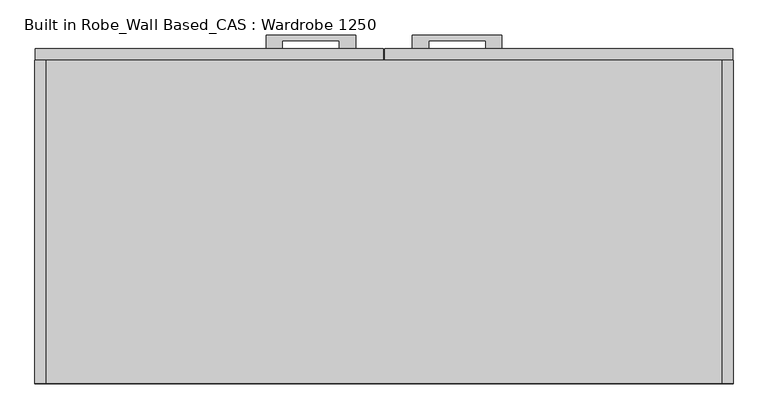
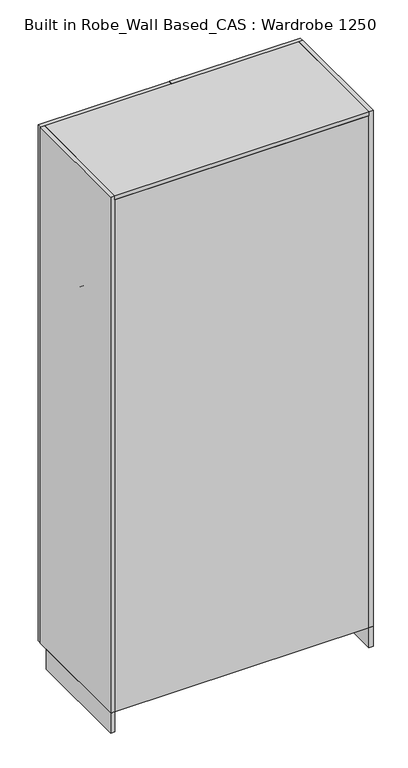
"""IFC4 building model written with IfcOpenShell, lengths in millimetres: furniture geometry, Built in Robe_Wall Based_CAS : Wardrobe 1250."""

from ifc_helpers import new_model, si_unit, point, frame, frame_2d, origin, origin_with_axes, place, context, project, spatial, polyline, circle_curve, trimmed, segment, composite_curve, outline, extrude, source, transform, mapped, element, save


def built_in_robe_wall_based_cas_wardrobe_1250_ac089991(model_context):
    return source(origin(), model_context, "Body", "SweptSolid", [
        extrude(outline(polyline([(750.0, -11.0), (750.0, -541.0), (730.0, -541.0), (730.0, -31.0), (-480.0, -31.0), (-480.0, -541.0), (-500.0, -541.0), (-500.0, -11.0), (750.0, -11.0)])), origin_with_axes(), (0.0, 0.0, 1.0), 100.0),
        extrude(outline(polyline([(176.0, 84.0), (336.0, 84.0), (336.0, 59.0), (307.0, 59.0), (307.0, 74.0), (205.0, 74.0), (205.0, 59.0), (176.0, 59.0), (176.0, 84.0)])), frame((0.0, 0.0, 792.5), z_axis=(0.0, 0.0, 1.0), x_axis=(1.0, 0.0, 0.0)), (0.0, 0.0, 1.0), 15.0),
        extrude(outline(polyline([(749.0, 59.0), (749.0, 39.0), (126.0, 39.0), (126.0, 59.0), (749.0, 59.0)])), frame((0.0, 0.0, 100.0), z_axis=(0.0, 0.0, 1.0), x_axis=(1.0, 0.0, 0.0)), (0.0, 0.0, 1.0), 2599.0),
        extrude(outline(polyline([(74.0, 84.0), (74.0, 59.0), (45.0, 59.0), (45.0, 74.0), (-57.0, 74.0), (-57.0, 59.0), (-86.0, 59.0), (-86.0, 84.0), (74.0, 84.0)])), frame((0.0, 0.0, 792.5), z_axis=(0.0, 0.0, 1.0), x_axis=(1.0, 0.0, 0.0)), (0.0, 0.0, 1.0), 15.0),
        extrude(outline(polyline([(-499.0, 59.0), (124.0, 59.0), (124.0, 39.0), (-499.0, 39.0), (-499.0, 59.0)])), frame((0.0, 0.0, 100.0), z_axis=(0.0, 0.0, 1.0), x_axis=(1.0, 0.0, 0.0)), (0.0, 0.0, 1.0), 2599.0),
        extrude(outline(composite_curve([segment(trimmed(circle_curve(frame_2d((-231.0, 2060.0)), 37.5), [point((-193.5, 2060.0))], [point((-268.5, 2060.0))], False, "CARTESIAN"), True, "CONTINUOUS"), segment(trimmed(circle_curve(frame_2d((-231.0, 2060.0)), 37.5), [point((-268.5, 2060.0))], [point((-193.5, 2060.0))], False, "CARTESIAN"), True, "CONTINUOUS")], self_intersect=False)), frame((-480.0, 0.0, 0.0), z_axis=(1.0, 0.0, 0.0), x_axis=(0.0, 1.0, 0.0)), (0.0, 0.0, 1.0), 10.0),
        extrude(outline(composite_curve([segment(trimmed(circle_curve(frame_2d((-231.0, 2060.0)), 10.0), [point((-241.0, 2060.0))], [point((-221.0, 2060.0))], False, "CARTESIAN"), True, "CONTINUOUS"), segment(trimmed(circle_curve(frame_2d((-231.0, 2060.0)), 10.0), [point((-221.0, 2060.0))], [point((-241.0, 2060.0))], False, "CARTESIAN"), True, "CONTINUOUS")], self_intersect=False)), frame((-470.0, 0.0, 0.0), z_axis=(1.0, 0.0, 0.0), x_axis=(0.0, 1.0, 0.0)), (0.0, 0.0, 1.0), 1190.0),
        extrude(outline(composite_curve([segment(trimmed(circle_curve(frame_2d((-231.0, 2060.0)), 37.5), [point((-193.5, 2060.0))], [point((-268.5, 2060.0))], False, "CARTESIAN"), True, "CONTINUOUS"), segment(trimmed(circle_curve(frame_2d((-231.0, 2060.0)), 37.5), [point((-268.5, 2060.0))], [point((-193.5, 2060.0))], False, "CARTESIAN"), True, "CONTINUOUS")], self_intersect=False)), frame((720.0, 0.0, 0.0), z_axis=(1.0, 0.0, 0.0), x_axis=(0.0, 1.0, 0.0)), (0.0, 0.0, 1.0), 10.0),
        extrude(outline(composite_curve([segment(trimmed(circle_curve(frame_2d((-231.0, 1100.0)), 37.5), [point((-193.5, 1100.0))], [point((-268.5, 1100.0))], False, "CARTESIAN"), True, "CONTINUOUS"), segment(trimmed(circle_curve(frame_2d((-231.0, 1100.0)), 37.5), [point((-268.5, 1100.0))], [point((-193.5, 1100.0))], False, "CARTESIAN"), True, "CONTINUOUS")], self_intersect=False)), frame((-480.0, 0.0, 0.0), z_axis=(1.0, 0.0, 0.0), x_axis=(0.0, 1.0, 0.0)), (0.0, 0.0, 1.0), 10.0),
        extrude(outline(composite_curve([segment(trimmed(circle_curve(frame_2d((-231.0, 1100.0)), 10.0), [point((-241.0, 1100.0))], [point((-221.0, 1100.0))], False, "CARTESIAN"), True, "CONTINUOUS"), segment(trimmed(circle_curve(frame_2d((-231.0, 1100.0)), 10.0), [point((-221.0, 1100.0))], [point((-241.0, 1100.0))], False, "CARTESIAN"), True, "CONTINUOUS")], self_intersect=False)), frame((-470.0, 0.0, 0.0), z_axis=(1.0, 0.0, 0.0), x_axis=(0.0, 1.0, 0.0)), (0.0, 0.0, 1.0), 1190.0),
        extrude(outline(composite_curve([segment(trimmed(circle_curve(frame_2d((-231.0, 1100.0)), 37.5), [point((-193.5, 1100.0))], [point((-268.5, 1100.0))], False, "CARTESIAN"), True, "CONTINUOUS"), segment(trimmed(circle_curve(frame_2d((-231.0, 1100.0)), 37.5), [point((-268.5, 1100.0))], [point((-193.5, 1100.0))], False, "CARTESIAN"), True, "CONTINUOUS")], self_intersect=False)), frame((720.0, 0.0, 0.0), z_axis=(1.0, 0.0, 0.0), x_axis=(0.0, 1.0, 0.0)), (0.0, 0.0, 1.0), 10.0),
        extrude(outline(polyline([(-480.0, -521.0), (-480.0, 39.0), (730.0, 39.0), (730.0, -521.0), (-480.0, -521.0)])), frame((0.0, 0.0, 100.0), z_axis=(0.0, 0.0, 1.0), x_axis=(1.0, 0.0, 0.0)), (0.0, 0.0, 1.0), 20.0),
        extrude(outline(polyline([(-480.0, -541.0), (-480.0, 39.0), (730.0, 39.0), (730.0, -541.0), (-480.0, -541.0)])), frame((0.0, 0.0, 2680.0), z_axis=(0.0, 0.0, 1.0), x_axis=(1.0, 0.0, 0.0)), (0.0, 0.0, 1.0), 20.0),
        extrude(outline(polyline([(-480.0, -541.0), (-500.0, -541.0), (-500.0, 39.0), (-480.0, 39.0), (-480.0, -541.0)])), frame((0.0, 0.0, 100.0), z_axis=(0.0, 0.0, 1.0), x_axis=(1.0, 0.0, 0.0)), (0.0, 0.0, 1.0), 2600.0),
        extrude(outline(polyline([(750.0, -541.0), (730.0, -541.0), (730.0, 39.0), (750.0, 39.0), (750.0, -541.0)])), frame((0.0, 0.0, 100.0), z_axis=(0.0, 0.0, 1.0), x_axis=(1.0, 0.0, 0.0)), (0.0, 0.0, 1.0), 2600.0),
        extrude(outline(polyline([(-480.0, -521.0), (730.0, -521.0), (730.0, -541.0), (-480.0, -541.0), (-480.0, -521.0)])), frame((0.0, 0.0, 100.0), z_axis=(0.0, 0.0, 1.0), x_axis=(1.0, 0.0, 0.0)), (0.0, 0.0, 1.0), 2580.0),
    ])


if __name__ == "__main__":
    model = new_model("IFC4")
    model_context = context("Model", 3, world=origin())
    ifc_project = project(units=[si_unit("LENGTHUNIT", "METRE", prefix="MILLI")], contexts=[model_context])
    site = spatial("IfcSite", under=ifc_project)
    building = spatial("IfcBuilding", under=site)
    placement = place(None, origin())
    built_in_robe_wall_based_cas_wardrobe_1250_shape = built_in_robe_wall_based_cas_wardrobe_1250_ac089991(model_context)
    element("IfcFurniture", 1, ObjectType="Built in Robe_Wall Based_CAS : Wardrobe 1250", at=placement, inside=building, context=model_context, shape_type="MappedRepresentation", body=[
        mapped(built_in_robe_wall_based_cas_wardrobe_1250_shape, transform((0.0, 0.0, 0.0), x_axis=(1.0, 0.0, 0.0), y_axis=(0.0, 1.0, 0.0), z_axis=(0.0, 0.0, 1.0))),
    ])
    save(model, "model.ifc")
